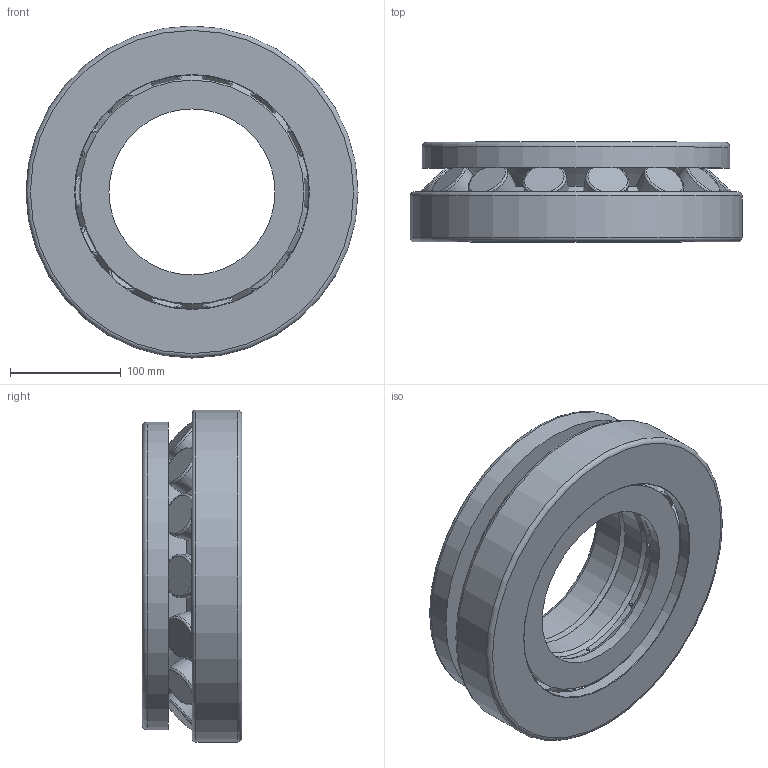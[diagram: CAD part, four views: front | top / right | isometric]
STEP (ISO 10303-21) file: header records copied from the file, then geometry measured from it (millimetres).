
FILE_DESCRIPTION(/* description */ (''),/* implementation_level */ '2;1');
FILE_NAME(/* name */ 'C:\Users\OUREHANEKD\Desktop\Ložiská\MODELY\ASL\294MC\292--\29430MC.stp',/* time_stamp */ '2016-09-22T13:53:06+02:00',/* author */ ('OUREHANEKD'),/* organization */ (''),/* preprocessor_version */ 'ST-DEVELOPER v15.6',/* originating_system */ 'Autodesk Inventor 2015',/* authorisation */ '');
FILE_SCHEMA (('AUTOMOTIVE_DESIGN { 1 0 10303 214 3 1 1 }'));
Length unit declared in the file: millimetre
Products named in the file (6): 29430MC-01; 29430MC-02; 29430MC-kl; 29430MC-kr; 29430MC-roller; 29430MC
Assembly tree (18 placements, depth 2):
  29430MC
    29430MC-01
    29430MC-02
    29430MC-kl
    29430MC-kr
    29430MC-roller  x14
Bounding box: 300 x 90 x 300 mm (x, y, z)
Volume: 3729060.1 mm3; surface area: 525596.3 mm2
Topology: 18 solids, 18 shells, 116 faces, 225 edges, 144 vertices
Faces by surface type: plane 37, torus 35, cylinder 21, bspline 15, cone 8
Full cylindrical faces by diameter (mm): 2.79 x8, 150 x3, 154.68 x1, 157.2 x2, 170.042 x3, 202.14 x1, 211.5 x1, 278 x1, 300 x1
Entity records: 1967 total; most frequent: CARTESIAN_POINT 785, DIRECTION 238, ORIENTED_EDGE 128, AXIS2_PLACEMENT_3D 119, EDGE_LOOP 114, EDGE_CURVE 64, FACE_BOUND 63, VERTEX_POINT 62
